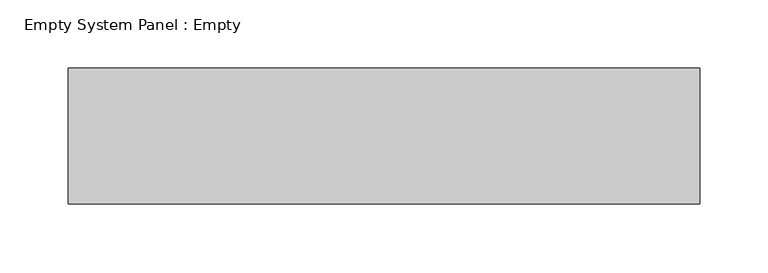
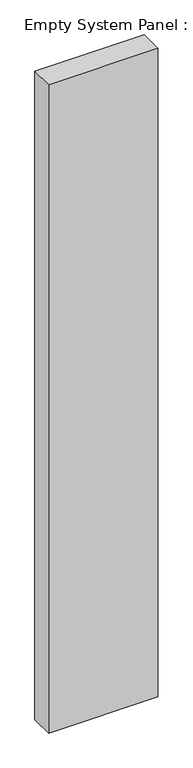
"""IFC4 building model written with IfcOpenShell, lengths in millimetres: plate geometry, Empty System Panel : Empty."""

from ifc_helpers import new_model, si_unit, origin, origin_with_axes, place, context, project, spatial, polyline, outline, extrude, source, transform, mapped, element, save


def empty_system_panel_empty_db6d56de(model_context):
    return source(origin(), model_context, "Body", "SweptSolid", [
        extrude(outline(polyline([(231.7391304, -50.0), (-231.7391304, -50.0), (-231.7391304, 50.0), (231.7391304, 50.0), (231.7391304, -50.0)])), origin_with_axes(), (0.0, 0.0, 1.0), 2906.3195938),
    ])


if __name__ == "__main__":
    model = new_model("IFC4")
    model_context = context("Model", 3, world=origin())
    ifc_project = project(units=[si_unit("LENGTHUNIT", "METRE", prefix="MILLI")], contexts=[model_context])
    site = spatial("IfcSite", under=ifc_project)
    building = spatial("IfcBuilding", under=site)
    placement = place(None, origin())
    empty_system_panel_empty_shape = empty_system_panel_empty_db6d56de(model_context)
    element("IfcPlate", 1, ObjectType="Empty System Panel : Empty", at=placement, inside=building, context=model_context, shape_type="MappedRepresentation", body=[
        mapped(empty_system_panel_empty_shape, transform((0.0, 0.0, 0.0), x_axis=(1.0, 0.0, 0.0), y_axis=(0.0, 1.0, 0.0), z_axis=(0.0, 0.0, 1.0))),
    ])
    save(model, "model.ifc")
